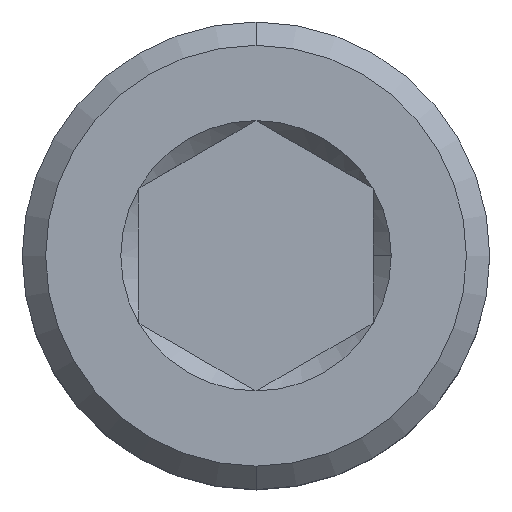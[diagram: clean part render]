
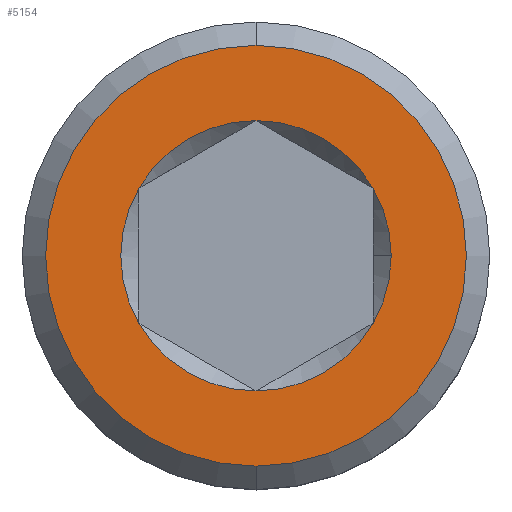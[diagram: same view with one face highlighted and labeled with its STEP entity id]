
A CAD part, top view. The second image highlights one B-rep face of the part: STEP entity #5154.
In plain terms, the highlighted planar face has unit normal (0, 0, 1).
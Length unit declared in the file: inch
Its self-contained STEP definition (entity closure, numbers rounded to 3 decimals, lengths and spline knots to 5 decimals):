
#238 = EDGE_LOOP ( 'NONE', ( #9570, #4387, #7057, #10132, #4168, #6861, #8115 ) ) ;
#271 = EDGE_CURVE ( 'NONE', #585, #8801, #9209, .T. ) ;
#406 = DIRECTION ( 'NONE',  ( 0., 0., 1. ) ) ;
#585 = VERTEX_POINT ( 'NONE', #5372 ) ;
#588 = EDGE_CURVE ( 'NONE', #7692, #9535, #5406, .T. ) ;
#778 = EDGE_CURVE ( 'NONE', #9535, #7692, #7571, .T. ) ;
#886 = DIRECTION ( 'NONE',  ( 1., 0., 0. ) ) ;
#994 = EDGE_CURVE ( 'NONE', #9005, #7359, #1441, .T. ) ;
#996 = AXIS2_PLACEMENT_3D ( 'NONE', #7697, #3848, #10151 ) ;
#1279 = DIRECTION ( 'NONE',  ( 1., 0., 0. ) ) ;
#1441 = CIRCLE ( 'NONE', #7907, 0.09021 ) ;
#1485 = DIRECTION ( 'NONE',  ( 0., 0., -1. ) ) ;
#1619 = VERTEX_POINT ( 'NONE', #10196 ) ;
#1655 = VERTEX_POINT ( 'NONE', #2205 ) ;
#1803 = EDGE_CURVE ( 'NONE', #8801, #9005, #4250, .T. ) ;
#2057 = DIRECTION ( 'NONE',  ( 0., 1., 0. ) ) ;
#2176 = DIRECTION ( 'NONE',  ( 0., 0., 1. ) ) ;
#2205 = CARTESIAN_POINT ( 'NONE',  ( 0., 0.09021, 1.345 ) ) ;
#2295 = CARTESIAN_POINT ( 'NONE',  ( 0., 0., 1.345 ) ) ;
#2432 = AXIS2_PLACEMENT_3D ( 'NONE', #5947, #6734, #1279 ) ;
#2762 = DIRECTION ( 'NONE',  ( 1., 0., 0. ) ) ;
#2808 = CIRCLE ( 'NONE', #5294, 0.09021 ) ;
#3037 = FACE_BOUND ( 'NONE', #238, .T. ) ;
#3164 = CARTESIAN_POINT ( 'NONE',  ( 0., 0., 1.345 ) ) ;
#3481 = CARTESIAN_POINT ( 'NONE',  ( -0.07813, -0.04511, 1.345 ) ) ;
#3807 = CARTESIAN_POINT ( 'NONE',  ( 0.09021, 0., 1.345 ) ) ;
#3848 = DIRECTION ( 'NONE',  ( 0., 0., 1. ) ) ;
#3866 = PLANE ( 'NONE',  #5431 ) ;
#3955 = DIRECTION ( 'NONE',  ( 0., 0., 1. ) ) ;
#3990 = DIRECTION ( 'NONE',  ( 0., 0., 1. ) ) ;
#4084 = AXIS2_PLACEMENT_3D ( 'NONE', #8529, #406, #2057 ) ;
#4168 = ORIENTED_EDGE ( 'NONE', *, *, #994, .F. ) ;
#4250 = CIRCLE ( 'NONE', #5412, 0.09021 ) ;
#4387 = ORIENTED_EDGE ( 'NONE', *, *, #7069, .F. ) ;
#4521 = CARTESIAN_POINT ( 'NONE',  ( 0., 0., 1.345 ) ) ;
#4809 = CIRCLE ( 'NONE', #6965, 0.09021 ) ;
#5154 = ADVANCED_FACE ( 'NONE', ( #7042, #3037 ), #3866, .F. ) ;
#5234 = CARTESIAN_POINT ( 'NONE',  ( 0., -0.09021, 1.345 ) ) ;
#5294 = AXIS2_PLACEMENT_3D ( 'NONE', #3164, #2176, #9215 ) ;
#5317 = CARTESIAN_POINT ( 'NONE',  ( 0., 0., 1.345 ) ) ;
#5321 = CARTESIAN_POINT ( 'NONE',  ( 0., 0.156, 1.345 ) ) ;
#5372 = CARTESIAN_POINT ( 'NONE',  ( -0.07813, 0.04511, 1.345 ) ) ;
#5406 = CIRCLE ( 'NONE', #4084, 0.1404 ) ;
#5412 = AXIS2_PLACEMENT_3D ( 'NONE', #5317, #8524, #8474 ) ;
#5431 = AXIS2_PLACEMENT_3D ( 'NONE', #5321, #1485, #7866 ) ;
#5461 = DIRECTION ( 'NONE',  ( 0., 0., 1. ) ) ;
#5947 = CARTESIAN_POINT ( 'NONE',  ( 0., 0., 1.345 ) ) ;
#6127 = AXIS2_PLACEMENT_3D ( 'NONE', #6384, #3990, #886 ) ;
#6343 = ORIENTED_EDGE ( 'NONE', *, *, #588, .T. ) ;
#6349 = CARTESIAN_POINT ( 'NONE',  ( 0., 0., 1.345 ) ) ;
#6380 = EDGE_CURVE ( 'NONE', #1655, #585, #7953, .T. ) ;
#6384 = CARTESIAN_POINT ( 'NONE',  ( 0., 0., 1.345 ) ) ;
#6734 = DIRECTION ( 'NONE',  ( 0., 0., 1. ) ) ;
#6736 = CARTESIAN_POINT ( 'NONE',  ( 0.07813, -0.04511, 1.345 ) ) ;
#6737 = EDGE_CURVE ( 'NONE', #10185, #1619, #2808, .T. ) ;
#6861 = ORIENTED_EDGE ( 'NONE', *, *, #1803, .F. ) ;
#6965 = AXIS2_PLACEMENT_3D ( 'NONE', #4521, #9838, #2762 ) ;
#7042 = FACE_OUTER_BOUND ( 'NONE', #7166, .T. ) ;
#7057 = ORIENTED_EDGE ( 'NONE', *, *, #6737, .F. ) ;
#7069 = EDGE_CURVE ( 'NONE', #1619, #1655, #9900, .T. ) ;
#7077 = AXIS2_PLACEMENT_3D ( 'NONE', #6349, #3955, #9492 ) ;
#7166 = EDGE_LOOP ( 'NONE', ( #6343, #7947 ) ) ;
#7353 = CARTESIAN_POINT ( 'NONE',  ( 0., -0.1404, 1.345 ) ) ;
#7359 = VERTEX_POINT ( 'NONE', #6736 ) ;
#7571 = CIRCLE ( 'NONE', #7077, 0.1404 ) ;
#7692 = VERTEX_POINT ( 'NONE', #10156 ) ;
#7697 = CARTESIAN_POINT ( 'NONE',  ( 0., 0., 1.345 ) ) ;
#7866 = DIRECTION ( 'NONE',  ( 0., 1., 0. ) ) ;
#7907 = AXIS2_PLACEMENT_3D ( 'NONE', #2295, #5461, #8614 ) ;
#7947 = ORIENTED_EDGE ( 'NONE', *, *, #778, .T. ) ;
#7953 = CIRCLE ( 'NONE', #996, 0.09021 ) ;
#8115 = ORIENTED_EDGE ( 'NONE', *, *, #271, .F. ) ;
#8257 = EDGE_CURVE ( 'NONE', #7359, #10185, #4809, .T. ) ;
#8474 = DIRECTION ( 'NONE',  ( 1., 0., 0. ) ) ;
#8524 = DIRECTION ( 'NONE',  ( 0., 0., 1. ) ) ;
#8529 = CARTESIAN_POINT ( 'NONE',  ( 0., 0., 1.345 ) ) ;
#8614 = DIRECTION ( 'NONE',  ( 1., 0., 0. ) ) ;
#8801 = VERTEX_POINT ( 'NONE', #3481 ) ;
#9005 = VERTEX_POINT ( 'NONE', #5234 ) ;
#9209 = CIRCLE ( 'NONE', #2432, 0.09021 ) ;
#9215 = DIRECTION ( 'NONE',  ( 1., 0., 0. ) ) ;
#9492 = DIRECTION ( 'NONE',  ( 0., 1., 0. ) ) ;
#9535 = VERTEX_POINT ( 'NONE', #7353 ) ;
#9570 = ORIENTED_EDGE ( 'NONE', *, *, #6380, .F. ) ;
#9838 = DIRECTION ( 'NONE',  ( 0., 0., 1. ) ) ;
#9900 = CIRCLE ( 'NONE', #6127, 0.09021 ) ;
#10132 = ORIENTED_EDGE ( 'NONE', *, *, #8257, .F. ) ;
#10151 = DIRECTION ( 'NONE',  ( 1., 0., 0. ) ) ;
#10156 = CARTESIAN_POINT ( 'NONE',  ( 0., 0.1404, 1.345 ) ) ;
#10185 = VERTEX_POINT ( 'NONE', #3807 ) ;
#10196 = CARTESIAN_POINT ( 'NONE',  ( 0.07813, 0.04511, 1.345 ) ) ;
